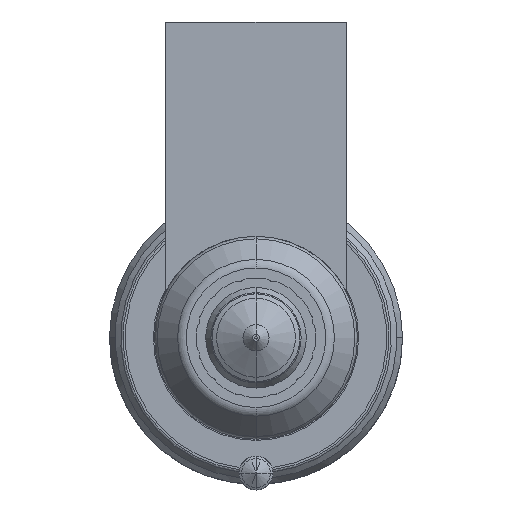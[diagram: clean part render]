
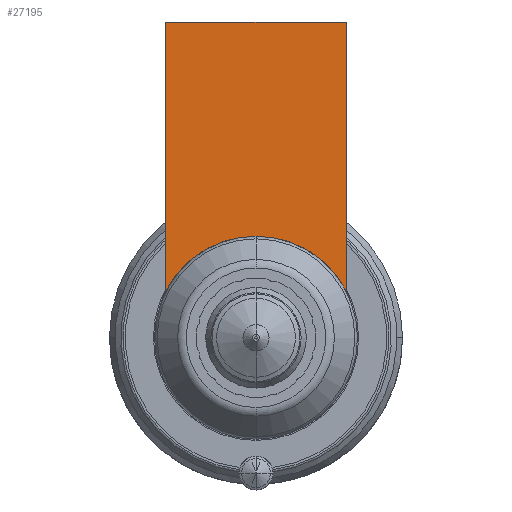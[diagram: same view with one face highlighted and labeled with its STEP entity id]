
A CAD part, front view. The second image highlights one B-rep face of the part: STEP entity #27195.
In plain terms, the highlighted planar face has unit normal (0, -1, 0).
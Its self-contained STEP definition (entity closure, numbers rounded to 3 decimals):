
#26386=CARTESIAN_POINT('',(0.,-54.,0.));
#26387=DIRECTION('',(0.,-1.,0.));
#26388=DIRECTION('',(0.,0.,1.));
#26389=AXIS2_PLACEMENT_3D('',#26386,#26387,#26388);
#26395=DIRECTION('',(1.,0.,0.));
#26396=VECTOR('',#26395,16.);
#26397=CARTESIAN_POINT('',(-8.,-54.,28.));
#26398=LINE('',#26397,#26396);
#26402=CARTESIAN_POINT('',(0.,-54.,0.));
#26403=DIRECTION('',(0.,-1.,0.));
#26404=DIRECTION('',(0.889,0.,0.458));
#26405=AXIS2_PLACEMENT_3D('',#26402,#26403,#26404);
#26553=DIRECTION('',(0.,0.,-1.));
#26554=VECTOR('',#26553,23.877);
#26555=CARTESIAN_POINT('',(8.,-54.,28.));
#26556=LINE('',#26555,#26554);
#26616=DIRECTION('',(0.,0.,-1.));
#26617=VECTOR('',#26616,23.877);
#26618=CARTESIAN_POINT('',(-8.,-54.,28.));
#26619=LINE('',#26618,#26617);
#27153=CARTESIAN_POINT('',(-8.,-54.,28.));
#27154=VERTEX_POINT('',#27153);
#27159=CARTESIAN_POINT('',(8.,-54.,28.));
#27160=VERTEX_POINT('',#27159);
#27165=CARTESIAN_POINT('',(0.,-54.,9.));
#27166=CARTESIAN_POINT('',(-8.,-54.,4.123));
#27167=VERTEX_POINT('',#27165);
#27168=VERTEX_POINT('',#27166);
#27169=CARTESIAN_POINT('',(8.,-54.,4.123));
#27170=VERTEX_POINT('',#27169);
#27178=CARTESIAN_POINT('',(0.,-54.,9.));
#27179=DIRECTION('',(0.,1.,0.));
#27180=DIRECTION('',(0.,0.,-1.));
#27181=AXIS2_PLACEMENT_3D('',#27178,#27179,#27180);
#27182=PLANE('',#27181);
#27184=ORIENTED_EDGE('',*,*,#27183,.T.);
#27186=ORIENTED_EDGE('',*,*,#27185,.F.);
#27188=ORIENTED_EDGE('',*,*,#27187,.T.);
#27190=ORIENTED_EDGE('',*,*,#27189,.T.);
#27192=ORIENTED_EDGE('',*,*,#27191,.T.);
#27193=EDGE_LOOP('',(#27184,#27186,#27188,#27190,#27192));
#27194=FACE_OUTER_BOUND('',#27193,.F.);
#27195=ADVANCED_FACE('',(#27194),#27182,.F.);
#26390=CIRCLE('',#26389,9.);
#26406=CIRCLE('',#26405,9.);
#27183=EDGE_CURVE('',#27167,#27168,#26390,.T.);
#27185=EDGE_CURVE('',#27154,#27168,#26619,.T.);
#27187=EDGE_CURVE('',#27154,#27160,#26398,.T.);
#27189=EDGE_CURVE('',#27160,#27170,#26556,.T.);
#27191=EDGE_CURVE('',#27170,#27167,#26406,.T.);
